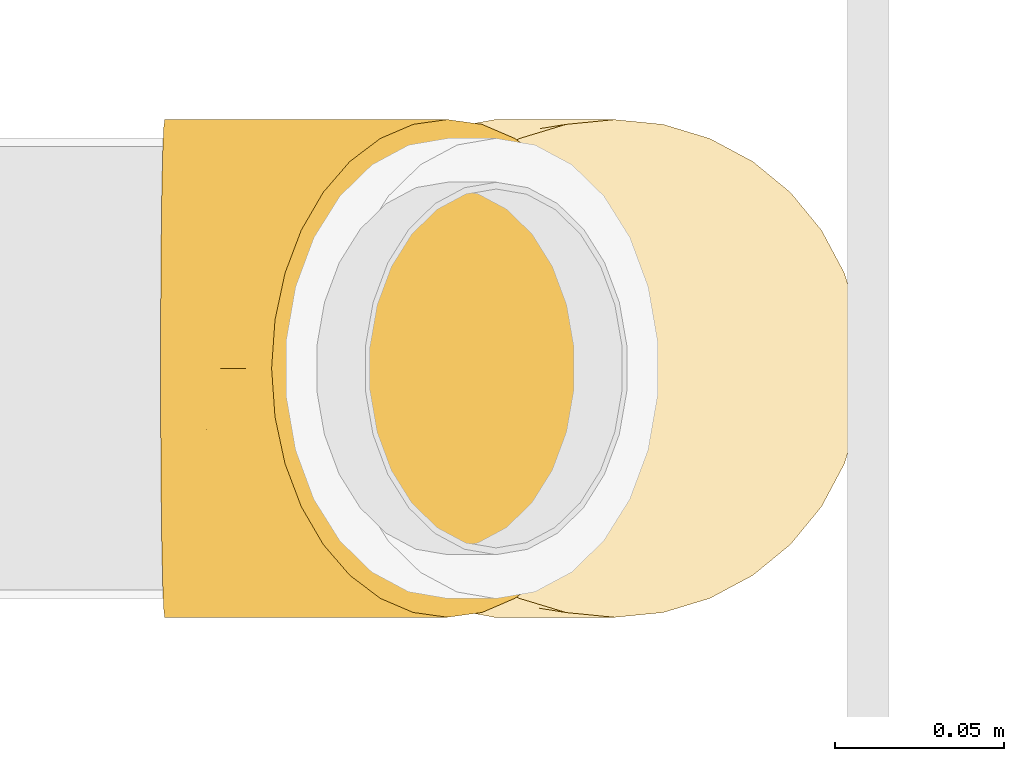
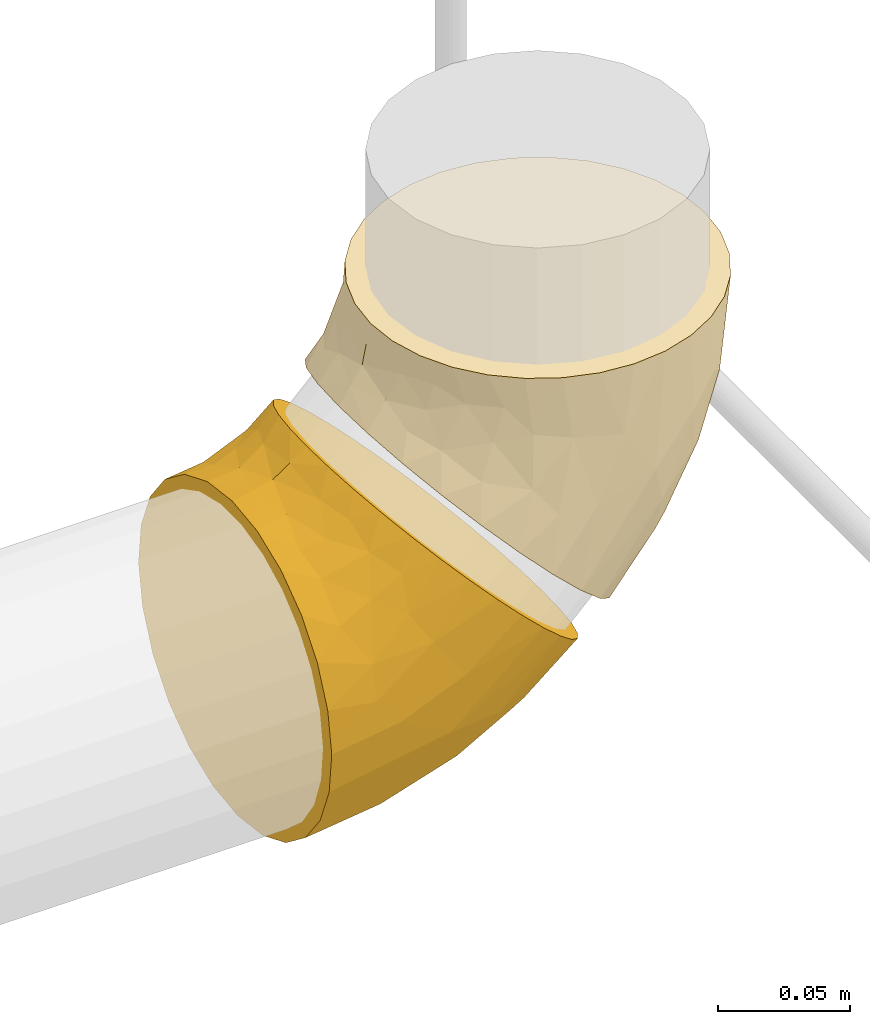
# One storey, part 28 of 156: 2 coverings.
"""IFC2X3 building model written with IfcOpenShell, lengths in millimetres."""

from ifc_helpers import new_model, entity, si_unit, converted_unit, derived_unit, direction, frame, origin_with_axes, place, context, subcontext, project, spatial, open_shell, surface_model, source, transform, mapped, element, save


model = new_model("IFC2X3")

# Units and contexts
model_context = context("Model", 3, precision=0.01, world=frame((0.0, 4.29681676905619e-09, 0.0)), true_north=direction((4.01073788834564e-13, 1.0)))
plan_context = context("Plan", 3, precision=0.01, world=frame((0.0, 4.29681676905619e-09, 0.0)), true_north=direction((4.01073788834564e-13, 1.0)))
body_context = subcontext(model_context, "Body", "Model", "MODEL_VIEW")
ifc_project = project(units=[converted_unit("PLANEANGLEUNIT", "DEGREE", entity("IfcPositiveLengthMeasure", 0.0174532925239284), si_unit("PLANEANGLEUNIT", "RADIAN"), dimensions=[0, 0, 0, 0, 0, 0, 0]), si_unit("AREAUNIT", "SQUARE_METRE"), si_unit("LENGTHUNIT", "METRE", prefix="MILLI"), si_unit("MASSUNIT", "GRAM", prefix="KILO"), si_unit("POWERUNIT", "WATT"), si_unit("PRESSUREUNIT", "PASCAL", prefix="KILO"), si_unit("FORCEUNIT", "NEWTON", prefix="KILO"), si_unit("ELECTRICVOLTAGEUNIT", "VOLT"), si_unit("ELECTRICCURRENTUNIT", "AMPERE"), si_unit("THERMODYNAMICTEMPERATUREUNIT", "DEGREE_CELSIUS"), si_unit("TIMEUNIT", "SECOND"), si_unit("VOLUMEUNIT", "CUBIC_METRE"), derived_unit("LINEARVELOCITYUNIT", [(si_unit("LENGTHUNIT", "METRE"), 1), (si_unit("TIMEUNIT", "SECOND"), -1)]), derived_unit("VOLUMETRICFLOWRATEUNIT", [(si_unit("VOLUMEUNIT", "CUBIC_METRE"), 1), (si_unit("TIMEUNIT", "SECOND"), -1)]), derived_unit("THERMALTRANSMITTANCEUNIT", [(si_unit("POWERUNIT", "WATT"), 1), (si_unit("THERMODYNAMICTEMPERATUREUNIT", "KELVIN"), -1), (si_unit("AREAUNIT", "SQUARE_METRE"), -1)]), derived_unit("SOUNDPRESSUREUNIT", [(si_unit("PRESSUREUNIT", "PASCAL"), 1)])], contexts=[model_context, plan_context])

# Site, building, storey
site_placement = place(None, frame((0.0, -4.29681676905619e-09, 0.0), z_axis=(0.0, 0.0, 1.0), x_axis=(1.0, 0.0, 0.0)))
site = spatial("IfcSite", under=ifc_project, at=site_placement, CompositionType="ELEMENT")
building_placement = place(site_placement, frame((0.0, 4.29681676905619e-09, 0.0), z_axis=(0.0, 0.0, 1.0), x_axis=(1.0, 0.0, 0.0)))
building = spatial("IfcBuilding", under=site, at=building_placement, Name="mc-building", CompositionType="ELEMENT")
storey_placement = place(building_placement, frame((0.0, 0.0, 205200.0), z_axis=(0.0, 0.0, 1.0), x_axis=(1.0, 0.0, 0.0)))
storey = spatial("IfcBuildingStorey", under=building, at=storey_placement, Name="Nivå D + 1,2 m", CompositionType="ELEMENT", Elevation=205200.0)

# Coverings
shared_shape_1 = source(origin_with_axes(), body_context, "Body", "SurfaceModel", [
    surface_model("IfcShellBasedSurfaceModel", [(35.17959, 34.02616, 73.5), (45.151, 23.71673, 72.08701), (63.57376, 4.66947, 61.10815), (54.73855, 13.80419, 67.90265), (77.67136, -9.90601, 40.82479), (82.39223, -14.78691, 28.11586), (45.13984, 23.72827, -72.0902), (71.31719, -3.33645, 51.96498), (86.27864, -18.80506, 0.0), (85.29628, -17.78941, -14.34271), (82.38721, -14.78172, -28.13327), (-48.94265, 70.99555, -19.0232), (-48.94265, 63.65287, 36.75), (-48.94265, 73.5, 0.0), (-48.94265, 51.97235, -51.97235), (-48.94265, 63.65287, -36.75), (-48.94265, 36.75, -63.65287), (-48.94265, 19.0232, 70.99555), (-48.94265, 19.0232, -70.99555), (-48.94265, 51.97235, 51.97235), (-48.94265, 70.99555, 19.0232), (-48.94265, 36.75, 63.65287), (-48.94265, 0.0, 73.5), (-48.94265, 0.0, -73.5), (-48.94265, -19.0232, -70.99555), (-48.94265, -36.75, -63.65287), (-48.94265, -73.5, 0.0), (-48.94265, -63.65287, -36.75), (-48.94265, -51.97235, -51.97235), (-48.94265, -70.99555, -19.0232), (-48.94265, -36.75, 63.65287), (-48.94265, -19.0232, 70.99555), (-48.94265, -51.97235, 51.97235), (-48.94265, -63.65287, 36.75), (-48.94265, -70.99555, 19.0232), (4.70339, -11.62811, 70.10924), (-11.79268, -69.91917, 0.0), (5.49729, -63.67267, 16.90402), (23.98939, -59.30853, 0.0), (51.8517, -41.92744, 20.49374), (30.21048, -15.2409, 63.75919), (-11.2399, -55.17777, 43.60654), (-14.51415, -63.91313, 30.01768), (-7.97177, -31.06005, 63.80632), (21.91668, -51.8428, 32.74298), (18.24826, -45.94476, 43.88746), (16.17402, -36.00127, 54.81106), (-17.94012, -44.84126, 55.90712), (-18.27528, 3.95081, 73.5), (51.44489, -36.00841, 33.62416), (57.08605, -42.05878, 0.0), (85.29851, -17.7917, 14.32665), (45.36569, -18.91098, 55.89531), (45.06717, -31.0472, 45.44987), (10.38942, 15.54525, 73.5), (-40.03707, 75.23289, 0.0), (-28.51806, 16.12231, 72.12469), (-0.94777, 71.37818, 51.97971), (-15.87647, 65.98218, 46.63532), (-7.58177, 59.02662, 56.92743), (-2.00146, 33.0691, 70.33875), (-27.08612, 30.7357, 67.90515), (-21.05326, 52.04599, 56.82324), (-35.94649, 45.85958, 58.31147), (-35.39677, 73.1543, 17.95287), (-22.84292, 77.57323, 21.34079), (-27.5856, 69.03523, 34.6544), (-36.04096, 59.65346, 44.74396), (-38.56147, 67.11684, 32.08756), (-14.93711, 85.84173, 14.34271), (-23.52547, 81.91158, 0.0), (-7.30433, 77.95021, 40.8417), (-17.58859, 74.38043, 34.6544), (6.79717, 63.3707, 61.11944), (-9.10568, 45.30053, 64.38139), (15.63274, 54.23562, 67.90986), (25.21934, 44.32404, 72.0902), (-12.02803, 82.83404, 28.13327), (-31.13148, 76.96578, 0.0), (-15.91946, 86.85738, 0.0), (-38.56264, 67.1147, -32.09143), (-27.58977, 69.0435, -34.63712), (-36.03446, 59.65483, -44.74397), (-35.38819, 73.1593, -17.94305), (-14.93933, 85.84402, -14.32665), (-22.84535, 77.57773, -21.32394), (-17.59418, 74.3878, -34.63713), (-9.11017, 45.31749, -64.37197), (-21.05673, 52.06175, -56.81019), (-7.58965, 59.04174, -56.91358), (-18.27528, 3.95081, -73.5), (-27.10297, 30.73162, -67.90515), (-35.94319, 45.86015, -58.31147), (-15.88314, 65.99341, -46.61941), (-12.03305, 82.83923, -28.11586), (-2.03304, 33.07136, -70.33364), (15.62063, 54.24813, -67.90265), (-7.31218, 77.95833, -40.82479), (-0.95801, 71.38877, -51.96498), (6.78541, 63.38285, -61.10815), (-16.70406, 19.54901, -72.04548), (25.20818, 44.33559, -72.08701), (35.17959, 34.02616, -73.5), (10.38942, 15.54525, -73.5), (63.56201, 4.68162, -61.11944), (71.30695, -3.32586, -51.97971), (45.35403, -18.90037, -55.90839), (-7.94621, -31.04339, -63.81171), (30.19869, -15.22856, -63.7687), (16.16178, -35.99047, -54.82417), (54.72644, 13.81671, -67.90986), (4.70339, -11.62811, -70.10924), (-17.95677, -44.83118, -55.91817), (21.91538, -51.83425, -32.75989), (-14.52029, -63.91271, -30.0211), (-11.25725, -55.18108, -43.60708), (51.84878, -41.92361, -20.51024), (5.49642, -63.67062, -16.91336), (45.05793, -31.03832, -45.46564), (17.49431, -45.0956, -45.288), (77.66351, -9.89789, -40.8417), (56.91846, -32.31182, -33.71897)], [open_shell([[[0, 1, 2]], [[3, 2, 1]], [[4, 5, 6]], [[4, 2, 7]], [[8, 9, 10]], [[11, 12, 13]], [[14, 11, 15]], [[12, 14, 16]], [[11, 14, 12]], [[17, 16, 18]], [[12, 17, 19]], [[12, 20, 13]], [[19, 17, 21]], [[16, 17, 12]], [[18, 22, 17]], [[18, 23, 22]], [[23, 24, 25]], [[26, 23, 25]], [[26, 25, 27]], [[27, 25, 28]], [[26, 27, 29]], [[22, 30, 31]], [[32, 30, 22]], [[33, 26, 34]], [[26, 33, 32]], [[23, 26, 32]], [[32, 22, 23]], [[3, 1, 35]], [[34, 26, 36]], [[37, 36, 38]], [[38, 39, 37]], [[2, 3, 40]], [[41, 33, 42]], [[31, 30, 43]], [[39, 44, 37]], [[45, 46, 41]], [[46, 43, 47]], [[31, 48, 22]], [[48, 31, 35]], [[33, 41, 32]], [[3, 35, 40]], [[40, 43, 46]], [[49, 44, 39]], [[38, 50, 39]], [[50, 51, 39]], [[52, 7, 2]], [[49, 53, 45]], [[49, 4, 53]], [[51, 50, 8]], [[47, 41, 46]], [[45, 41, 44]], [[52, 53, 7]], [[53, 52, 46]], [[54, 1, 0]], [[35, 54, 48]], [[44, 41, 42]], [[34, 37, 42]], [[1, 54, 35]], [[52, 40, 46]], [[47, 30, 32]], [[31, 43, 35]], [[4, 7, 53]], [[34, 36, 37]], [[40, 52, 2]], [[39, 51, 5]], [[34, 42, 33]], [[43, 40, 35]], [[44, 42, 37]], [[30, 47, 43]], [[41, 47, 32]], [[39, 5, 49]], [[4, 49, 5]], [[49, 45, 44]], [[46, 45, 53]], [[55, 13, 20]], [[22, 48, 56]], [[57, 58, 59]], [[60, 61, 56]], [[59, 58, 62]], [[61, 62, 63]], [[55, 20, 64]], [[56, 61, 17]], [[65, 64, 66]], [[12, 19, 67]], [[67, 66, 68]], [[12, 67, 68]], [[69, 70, 65]], [[68, 20, 12]], [[48, 54, 60]], [[66, 64, 68]], [[71, 72, 58]], [[73, 74, 75]], [[76, 75, 60]], [[76, 54, 0]], [[67, 58, 66]], [[74, 73, 59]], [[58, 72, 66]], [[21, 17, 61]], [[71, 77, 72]], [[19, 21, 63]], [[78, 64, 65]], [[64, 78, 55]], [[65, 72, 77]], [[66, 72, 65]], [[77, 69, 65]], [[57, 71, 58]], [[63, 67, 19]], [[60, 54, 76]], [[58, 67, 62]], [[61, 60, 74]], [[20, 68, 64]], [[61, 63, 21]], [[67, 63, 62]], [[74, 59, 62]], [[57, 59, 73]], [[61, 74, 62]], [[75, 74, 60]], [[70, 69, 79]], [[70, 78, 65]], [[22, 56, 17]], [[60, 56, 48]], [[80, 81, 82]], [[11, 55, 83]], [[14, 15, 82]], [[70, 79, 84]], [[85, 86, 81]], [[87, 88, 89]], [[23, 18, 90]], [[91, 16, 92]], [[87, 91, 88]], [[11, 83, 80]], [[92, 16, 14]], [[18, 16, 91]], [[82, 93, 88]], [[83, 85, 81]], [[84, 94, 85]], [[82, 92, 14]], [[88, 93, 89]], [[95, 87, 96]], [[86, 85, 94]], [[86, 94, 97]], [[97, 98, 93]], [[80, 82, 15]], [[93, 81, 86]], [[89, 98, 99]], [[91, 100, 18]], [[96, 101, 95]], [[101, 102, 103]], [[83, 78, 85]], [[93, 86, 97]], [[103, 95, 101]], [[100, 103, 90]], [[103, 100, 95]], [[93, 82, 81]], [[84, 85, 70]], [[92, 82, 88]], [[100, 91, 95]], [[91, 92, 88]], [[11, 80, 15]], [[83, 81, 80]], [[98, 89, 93]], [[99, 96, 87]], [[87, 89, 99]], [[91, 87, 95]], [[85, 78, 70]], [[55, 11, 13]], [[55, 78, 83]], [[18, 100, 90]], [[104, 105, 106]], [[24, 107, 25]], [[24, 23, 90]], [[108, 106, 109]], [[6, 110, 111]], [[107, 111, 108]], [[112, 107, 109]], [[111, 107, 24]], [[26, 29, 36]], [[113, 114, 115]], [[113, 116, 117]], [[38, 36, 117]], [[115, 27, 28]], [[115, 114, 27]], [[118, 119, 109]], [[112, 25, 107]], [[111, 90, 103]], [[112, 115, 28]], [[103, 102, 6]], [[113, 117, 114]], [[104, 106, 108]], [[36, 29, 117]], [[111, 110, 108]], [[111, 24, 90]], [[114, 29, 27]], [[105, 120, 118]], [[116, 121, 10]], [[109, 106, 118]], [[119, 113, 115]], [[38, 117, 116]], [[9, 8, 50]], [[38, 116, 50]], [[9, 50, 116]], [[113, 118, 121]], [[120, 10, 121]], [[9, 116, 10]], [[107, 108, 109]], [[111, 103, 6]], [[118, 106, 105]], [[108, 110, 104]], [[29, 114, 117]], [[112, 109, 119]], [[25, 112, 28]], [[113, 121, 116]], [[120, 121, 118]], [[113, 119, 118]], [[112, 119, 115]], [[75, 76, 57]], [[57, 73, 75]], [[94, 84, 97]], [[120, 105, 10]], [[69, 84, 79]], [[57, 77, 71]], [[4, 6, 76]], [[105, 104, 110]], [[69, 77, 57]], [[6, 102, 101]], [[10, 110, 6]], [[51, 8, 10]], [[57, 84, 69]], [[57, 6, 84]], [[98, 97, 84]], [[84, 99, 98]], [[99, 84, 96]], [[6, 101, 96]], [[84, 6, 96]], [[6, 57, 76]], [[0, 2, 4]], [[51, 10, 5]], [[105, 110, 10]], [[6, 5, 10]], [[4, 76, 0]]])]),
])
covering_1_placement = place(storey_placement, frame((328822.55184, 462815.30448, 4229.50581), z_axis=(0.0, -1.0, 0.0), x_axis=(0.999861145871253, 0.0, 0.0166640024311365)))
element("IfcCovering", 1, at=covering_1_placement, inside=storey, Name="BI17T - Cellegummi 13 mm SPV fett", PredefinedType="INSULATION", context=body_context, shape_type="MappedRepresentation", body=[
    mapped(shared_shape_1, transform((0.0, 0.0, 0.0), scale=1.0)),
])
shared_shape_2 = source(origin_with_axes(), body_context, "Body", "SurfaceModel", [
    surface_model("IfcShellBasedSurfaceModel", [(-12.57944, 83.4596, -28.11586), (-15.53539, 86.41555, -14.32665), (-7.77789, 78.65805, -40.82479), (78.65805, -7.77789, 40.82479), (64.31953, 6.56064, 61.10815), (72.19529, -1.31513, 51.96498), (78.65006, -7.7699, -40.8417), (72.18487, -1.30471, -51.97971), (64.30757, 6.57259, -61.11944), (86.41329, -15.53313, -14.34271), (45.57056, 25.30961, -72.0902), (83.4545, -12.57434, -28.13327), (86.41555, -15.53539, 14.32665), (87.41242, -16.53227, 0.0), (-50.11984, 70.99555, -19.0232), (-50.11984, 70.99555, 19.0232), (-50.11984, 73.5, 0.0), (-50.11984, 63.65287, -36.75), (-50.11984, -19.0232, 70.99555), (-50.11984, 36.75, -63.65287), (-50.11984, 0.0, -73.5), (-50.11984, 51.97235, -51.97235), (-50.11984, 51.97235, 51.97235), (-50.11984, 63.65287, 36.75), (-50.11984, 19.0232, 70.99555), (-50.11984, 36.75, 63.65287), (-50.11984, 0.0, 73.5), (-50.11984, 19.0232, -70.99555), (-50.11984, -19.0232, -70.99555), (-50.11984, -51.97235, -51.97235), (-50.11984, -36.75, -63.65287), (-50.11984, -63.65287, -36.75), (-50.11984, -73.5, 0.0), (-50.11984, -70.99555, -19.0232), (-50.11984, -36.75, 63.65287), (-50.11984, -63.65287, 36.75), (-50.11984, -51.97235, 51.97235), (-50.11984, -70.99555, 19.0232), (55.3333, 15.54685, 67.90265), (45.58191, 25.29825, 72.08701), (4.83385, -11.66995, 69.93889), (-12.17477, -69.76274, 0.0), (5.47106, -63.34082, 16.85797), (24.31209, -58.69457, 0.0), (52.8356, -40.58128, 20.46241), (31.28542, -13.95595, 63.73529), (-11.70209, -55.05863, 43.55959), (-15.48663, -63.93403, 29.88743), (-5.11298, -30.31246, 63.58684), (22.17475, -51.29307, 32.65824), (17.5441, -34.97729, 54.76439), (-17.48463, -44.85254, 55.63353), (18.60902, -45.081, 44.17956), (-18.80274, 4.12297, 73.5), (51.47749, -35.2588, 33.5744), (57.93857, -40.72084, 0.0), (46.47904, -17.36978, 55.87406), (46.39615, -29.49322, 45.42373), (10.38016, 16.21093, 73.5), (35.44008, 35.44008, 73.5), (83.4596, -12.57944, 28.11586), (-41.03111, 75.30786, 0.0), (-29.5257, 16.17258, 72.12139), (-1.30471, 72.18487, 51.97971), (-16.17803, 66.51802, 46.63532), (-7.93405, 59.30084, 57.11817), (-1.68407, 33.88345, 70.33875), (-27.47038, 30.93139, 67.90515), (-15.53313, 86.41329, 14.34271), (-24.23732, 82.26407, 0.0), (-23.32895, 77.99618, 21.34079), (-21.65683, 52.28078, 56.82324), (-36.7774, 45.92029, 58.31147), (-35.68555, 73.38962, 18.04818), (-36.78684, 59.74575, 44.74396), (-27.98661, 69.36105, 34.6544), (-39.43278, 67.5041, 31.41719), (-12.57434, 83.4545, 28.13327), (-18.04026, 74.87686, 34.65411), (-7.7699, 78.65006, 40.8417), (6.57259, 64.30757, 61.11944), (-9.78753, 45.50133, 64.41145), (15.55917, 55.32099, 67.90986), (25.30961, 45.57056, 72.0902), (-31.94238, 77.11572, 0.0), (-16.53227, 87.41242, 0.0), (-39.43365, 67.50229, -31.42059), (-27.98963, 69.36981, -34.63712), (-36.7799, 59.74727, -44.74397), (-35.67695, 73.39476, -18.03863), (-18.03545, 74.89115, -34.6373), (-16.18434, 66.52948, -46.61941), (-16.39465, 20.01782, -72.04848), (-27.48676, 30.92728, -67.90515), (-1.71519, 33.88543, -70.33364), (-9.79264, 45.51856, -64.40178), (-21.66049, 52.29649, -56.81019), (-7.94214, 59.31576, -57.10449), (-18.80274, 4.12297, -73.5), (-36.77418, 45.92087, -58.31147), (-23.33104, 78.00091, -21.32394), (15.54685, 55.3333, -67.90265), (-1.31513, 72.19529, -51.96498), (6.56064, 64.31953, -61.10815), (25.29825, 45.58191, -72.08701), (35.44008, 35.44008, -73.5), (10.38016, 16.21093, -73.5), (46.46727, -17.35932, -55.88715), (46.38681, -29.48448, -45.4395), (18.21757, -44.64753, -44.90164), (17.53181, -34.96665, -54.77751), (31.27347, -13.94379, -63.74481), (55.32099, 15.55917, -67.90986), (4.83385, -11.66995, -69.93889), (-5.08832, -30.29523, -63.59234), (-17.50112, -44.84165, -55.64551), (-11.71909, -55.06193, -43.56013), (22.17334, -51.28457, -32.67513), (52.83268, -40.57748, -20.47889), (5.47018, -63.33879, -16.8673), (-15.49272, -63.93366, -29.89077), (58.20434, -30.61628, -33.66415)], [open_shell([[[0, 1, 2]], [[3, 4, 5]], [[6, 7, 8]], [[9, 6, 10]], [[11, 6, 9]], [[12, 13, 9]], [[14, 15, 16]], [[17, 18, 14]], [[19, 20, 21]], [[21, 18, 17]], [[18, 22, 14]], [[15, 22, 23]], [[15, 14, 22]], [[22, 24, 25]], [[24, 22, 26]], [[22, 18, 26]], [[27, 20, 19]], [[28, 18, 20]], [[29, 28, 30]], [[18, 29, 31]], [[28, 29, 18]], [[32, 31, 33]], [[34, 35, 36]], [[34, 18, 31]], [[35, 32, 37]], [[35, 34, 31]], [[32, 35, 31]], [[20, 18, 21]], [[38, 39, 40]], [[37, 32, 41]], [[42, 41, 43]], [[43, 44, 42]], [[4, 38, 45]], [[46, 35, 47]], [[18, 34, 48]], [[44, 49, 42]], [[50, 51, 52]], [[50, 48, 51]], [[18, 53, 26]], [[53, 18, 40]], [[35, 46, 36]], [[38, 40, 45]], [[45, 48, 50]], [[54, 49, 44]], [[43, 55, 44]], [[55, 12, 44]], [[56, 5, 4]], [[54, 57, 52]], [[54, 3, 57]], [[12, 55, 13]], [[51, 34, 36]], [[18, 48, 40]], [[56, 57, 5]], [[46, 52, 51]], [[58, 39, 59]], [[40, 58, 53]], [[49, 46, 47]], [[37, 42, 47]], [[39, 58, 40]], [[56, 45, 50]], [[57, 56, 50]], [[45, 56, 4]], [[3, 5, 57]], [[37, 41, 42]], [[52, 46, 49]], [[44, 12, 60]], [[34, 51, 48]], [[48, 45, 40]], [[46, 51, 36]], [[37, 47, 35]], [[49, 47, 42]], [[44, 60, 54]], [[3, 54, 60]], [[54, 52, 49]], [[50, 52, 57]], [[61, 16, 15]], [[26, 53, 62]], [[63, 64, 65]], [[66, 67, 62]], [[68, 69, 70]], [[67, 71, 72]], [[61, 15, 73]], [[72, 74, 22]], [[70, 73, 75]], [[74, 23, 22]], [[74, 75, 76]], [[23, 74, 76]], [[65, 64, 71]], [[76, 15, 23]], [[53, 58, 66]], [[67, 72, 25]], [[77, 78, 79]], [[80, 81, 82]], [[83, 82, 66]], [[83, 58, 59]], [[73, 84, 61]], [[81, 80, 65]], [[67, 66, 81]], [[25, 24, 67]], [[63, 79, 64]], [[22, 25, 72]], [[84, 73, 70]], [[74, 64, 75]], [[62, 67, 24]], [[64, 78, 75]], [[77, 68, 70]], [[70, 75, 78]], [[75, 73, 76]], [[66, 58, 83]], [[15, 76, 73]], [[64, 74, 71]], [[74, 72, 71]], [[79, 78, 64]], [[77, 70, 78]], [[81, 65, 71]], [[63, 65, 80]], [[67, 81, 71]], [[82, 81, 66]], [[69, 68, 85]], [[69, 84, 70]], [[26, 62, 24]], [[66, 62, 53]], [[86, 87, 88]], [[14, 61, 89]], [[90, 2, 91]], [[69, 85, 1]], [[92, 93, 94]], [[95, 96, 97]], [[20, 27, 98]], [[91, 88, 87]], [[95, 93, 96]], [[14, 89, 86]], [[99, 19, 21]], [[27, 19, 93]], [[88, 91, 96]], [[89, 100, 87]], [[1, 0, 100]], [[88, 99, 21]], [[96, 91, 97]], [[94, 95, 101]], [[0, 2, 90]], [[2, 102, 91]], [[17, 88, 21]], [[86, 88, 17]], [[90, 87, 100]], [[97, 102, 103]], [[93, 92, 27]], [[101, 104, 94]], [[104, 105, 106]], [[89, 84, 100]], [[93, 19, 99]], [[106, 94, 104]], [[92, 106, 98]], [[106, 92, 94]], [[14, 86, 17]], [[1, 100, 69]], [[89, 87, 86]], [[99, 88, 96]], [[93, 99, 96]], [[87, 90, 91]], [[0, 90, 100]], [[102, 97, 91]], [[103, 101, 95]], [[95, 97, 103]], [[93, 95, 94]], [[100, 84, 69]], [[61, 14, 16]], [[61, 84, 89]], [[27, 92, 98]], [[8, 7, 107]], [[108, 109, 110]], [[28, 20, 98]], [[111, 107, 110]], [[10, 112, 113]], [[114, 113, 111]], [[115, 116, 29]], [[113, 114, 28]], [[32, 33, 41]], [[115, 110, 109]], [[117, 118, 119]], [[43, 41, 119]], [[116, 31, 29]], [[116, 120, 31]], [[28, 114, 30]], [[115, 30, 114]], [[113, 98, 106]], [[115, 114, 110]], [[106, 105, 10]], [[117, 119, 120]], [[8, 107, 111]], [[41, 33, 119]], [[113, 112, 111]], [[113, 28, 98]], [[120, 33, 31]], [[7, 6, 108]], [[118, 121, 11]], [[110, 107, 108]], [[109, 117, 116]], [[43, 119, 118]], [[9, 13, 55]], [[43, 118, 55]], [[9, 55, 118]], [[117, 108, 121]], [[6, 11, 121]], [[9, 118, 11]], [[114, 111, 110]], [[113, 106, 10]], [[108, 107, 7]], [[111, 112, 8]], [[30, 115, 29]], [[117, 120, 116]], [[33, 120, 119]], [[117, 121, 118]], [[6, 121, 108]], [[117, 109, 108]], [[115, 109, 116]], [[68, 1, 85]], [[63, 80, 82]], [[105, 104, 101]], [[77, 79, 68]], [[59, 39, 38]], [[112, 10, 8]], [[6, 8, 10]], [[1, 68, 79]], [[105, 63, 82]], [[1, 79, 63]], [[82, 10, 105]], [[102, 2, 1]], [[1, 103, 102]], [[103, 1, 101]], [[63, 101, 1]], [[63, 105, 101]], [[82, 83, 10]], [[38, 4, 59]], [[59, 4, 3]], [[59, 3, 10]], [[3, 60, 10]], [[12, 10, 60]], [[10, 12, 9]], [[59, 10, 83]]])]),
])
covering_2_placement = place(storey_placement, frame((328906.4829, 462815.28789, 4313.43687000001), z_axis=(0.0, -1.0, 0.0), x_axis=(0.707106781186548, 0.0, 0.707106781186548)))
element("IfcCovering", 2, at=covering_2_placement, inside=storey, Name="BI17T - Cellegummi 13 mm SPV fett", PredefinedType="INSULATION", context=body_context, shape_type="MappedRepresentation", body=[
    mapped(shared_shape_2, transform((0.0, 0.0, 0.0), scale=1.0)),
])

save(model, "model.ifc")
